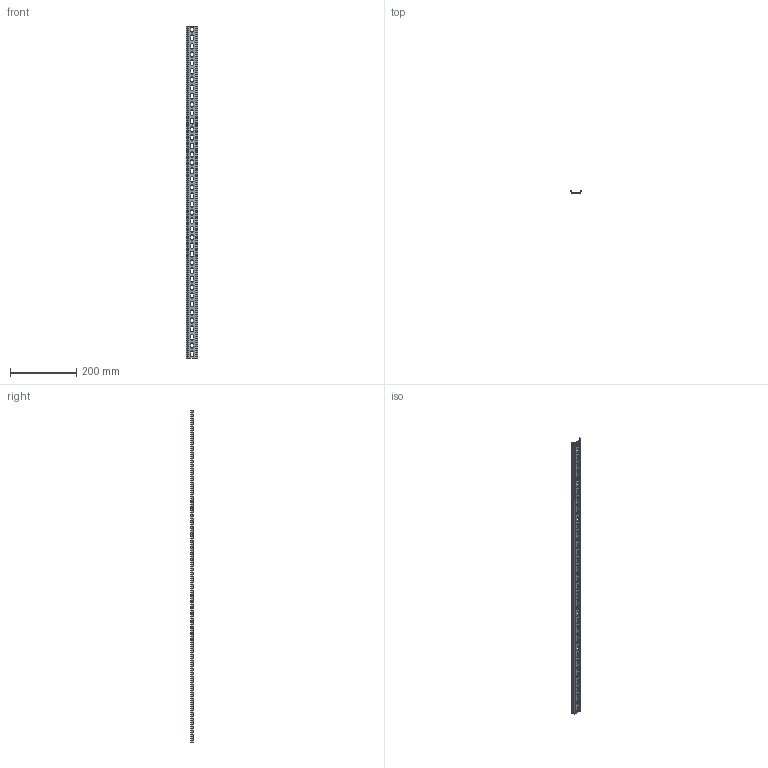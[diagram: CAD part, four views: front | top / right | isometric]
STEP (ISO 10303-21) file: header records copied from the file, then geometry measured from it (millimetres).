
FILE_DESCRIPTION (( 'STEP AP214' ), '1' );
FILE_NAME ('DIN-ðåéêà 1000ìì õ 0,1 ìì.STEP', '2025-10-22T11:53:41', ( '' ), ( '' ), 'SwSTEP 2.0', 'SolidWorks 2018', '' );
FILE_SCHEMA (( 'AUTOMOTIVE_DESIGN' ));
Length unit declared in the file: millimetre
Products named in the file (1): DIN-ðåéêà 1000ìì õ 0,1 ìì
Bounding box: 35.2 x 8.5 x 1000 mm (x, y, z)
Volume: 40970.8 mm3; surface area: 85744.6 mm2
Topology: 1 solids, 1 shells, 238 faces, 676 edges, 440 vertices
Faces by surface type: cylinder 128, plane 110
Entity records: 7974 total; most frequent: DIRECTION 1410, CARTESIAN_POINT 1355, ORIENTED_EDGE 1352, EDGE_CURVE 676, AXIS2_PLACEMENT_3D 495, VERTEX_POINT 440, VECTOR 420, LINE 420
